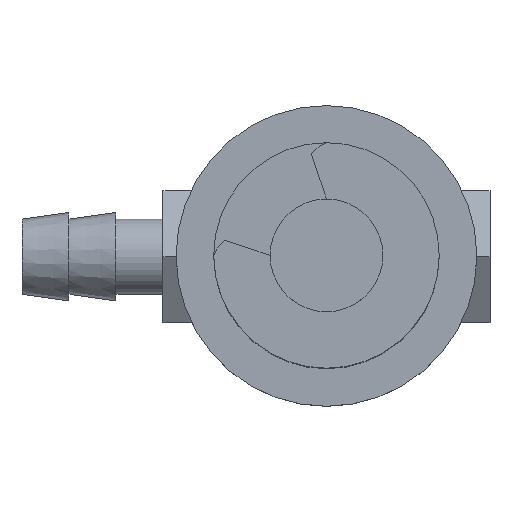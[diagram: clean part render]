
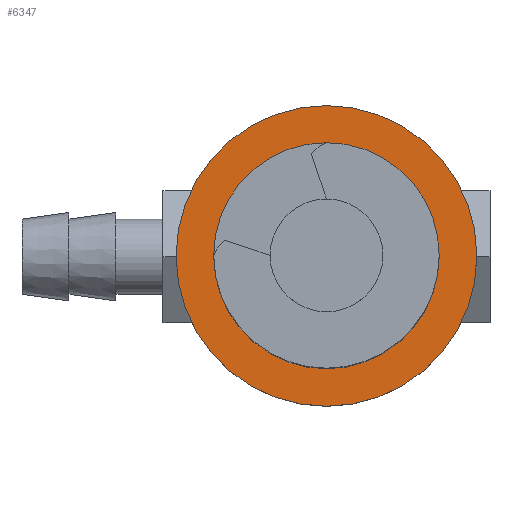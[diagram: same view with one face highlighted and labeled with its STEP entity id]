
A CAD part, top view. The second image highlights one B-rep face of the part: STEP entity #6347.
In plain terms, the highlighted planar face has unit normal (0, 0, 1).
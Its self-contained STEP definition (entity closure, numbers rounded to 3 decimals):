
#504 = CARTESIAN_POINT ( 'NONE',  ( 9.53, -1.601, 9.5 ) ) ;
#553 = CIRCLE ( 'NONE', #2468, 6. ) ;
#1087 = AXIS2_PLACEMENT_3D ( 'NONE', #9852, #5258, #9776 ) ;
#1261 = CARTESIAN_POINT ( 'NONE',  ( -4.47, -1.601, 9.5 ) ) ;
#1670 = CARTESIAN_POINT ( 'NONE',  ( -6.566, -9.697, 9.5 ) ) ;
#2257 = VERTEX_POINT ( 'NONE', #504 ) ;
#2276 = CIRCLE ( 'NONE', #6823, 8. ) ;
#2447 = DIRECTION ( 'NONE',  ( 1., 0., 0. ) ) ;
#2468 = AXIS2_PLACEMENT_3D ( 'NONE', #3095, #3051, #2749 ) ;
#2541 = EDGE_CURVE ( 'NONE', #3194, #2257, #3370, .T. ) ;
#2749 = DIRECTION ( 'NONE',  ( -1., 0., 0. ) ) ;
#2833 = AXIS2_PLACEMENT_3D ( 'NONE', #1670, #7108, #2447 ) ;
#2895 = DIRECTION ( 'NONE',  ( 0., 0., -1. ) ) ;
#3051 = DIRECTION ( 'NONE',  ( 0., 0., -1. ) ) ;
#3095 = CARTESIAN_POINT ( 'NONE',  ( 1.53, -1.601, 9.5 ) ) ;
#3194 = VERTEX_POINT ( 'NONE', #5327 ) ;
#3370 = CIRCLE ( 'NONE', #1087, 8. ) ;
#3547 = CARTESIAN_POINT ( 'NONE',  ( 7.53, -1.601, 9.5 ) ) ;
#3724 = VERTEX_POINT ( 'NONE', #3547 ) ;
#3753 = CIRCLE ( 'NONE', #6104, 6. ) ;
#3929 = EDGE_CURVE ( 'NONE', #3724, #7833, #553, .T. ) ;
#4622 = DIRECTION ( 'NONE',  ( 0., 0., 1. ) ) ;
#4934 = ORIENTED_EDGE ( 'NONE', *, *, #3929, .T. ) ;
#4936 = ORIENTED_EDGE ( 'NONE', *, *, #5681, .T. ) ;
#4976 = FACE_BOUND ( 'NONE', #6917, .T. ) ;
#5258 = DIRECTION ( 'NONE',  ( 0., 0., 1. ) ) ;
#5327 = CARTESIAN_POINT ( 'NONE',  ( -6.47, -1.601, 9.5 ) ) ;
#5653 = ORIENTED_EDGE ( 'NONE', *, *, #8300, .T. ) ;
#5663 = ORIENTED_EDGE ( 'NONE', *, *, #2541, .T. ) ;
#5681 = EDGE_CURVE ( 'NONE', #7833, #3724, #3753, .T. ) ;
#6104 = AXIS2_PLACEMENT_3D ( 'NONE', #7569, #2895, #8340 ) ;
#6347 = ADVANCED_FACE ( 'NONE', ( #4976, #6806 ), #8660, .T. ) ;
#6806 = FACE_OUTER_BOUND ( 'NONE', #9781, .T. ) ;
#6823 = AXIS2_PLACEMENT_3D ( 'NONE', #9256, #4622, #10021 ) ;
#6917 = EDGE_LOOP ( 'NONE', ( #4936, #4934 ) ) ;
#7108 = DIRECTION ( 'NONE',  ( 0., 0., 1. ) ) ;
#7569 = CARTESIAN_POINT ( 'NONE',  ( 1.53, -1.601, 9.5 ) ) ;
#7833 = VERTEX_POINT ( 'NONE', #1261 ) ;
#8300 = EDGE_CURVE ( 'NONE', #2257, #3194, #2276, .T. ) ;
#8340 = DIRECTION ( 'NONE',  ( -1., 0., 0. ) ) ;
#8660 = PLANE ( 'NONE',  #2833 ) ;
#9256 = CARTESIAN_POINT ( 'NONE',  ( 1.53, -1.601, 9.5 ) ) ;
#9776 = DIRECTION ( 'NONE',  ( -1., 0., 0. ) ) ;
#9781 = EDGE_LOOP ( 'NONE', ( #5663, #5653 ) ) ;
#9852 = CARTESIAN_POINT ( 'NONE',  ( 1.53, -1.601, 9.5 ) ) ;
#10021 = DIRECTION ( 'NONE',  ( -1., 0., 0. ) ) ;
